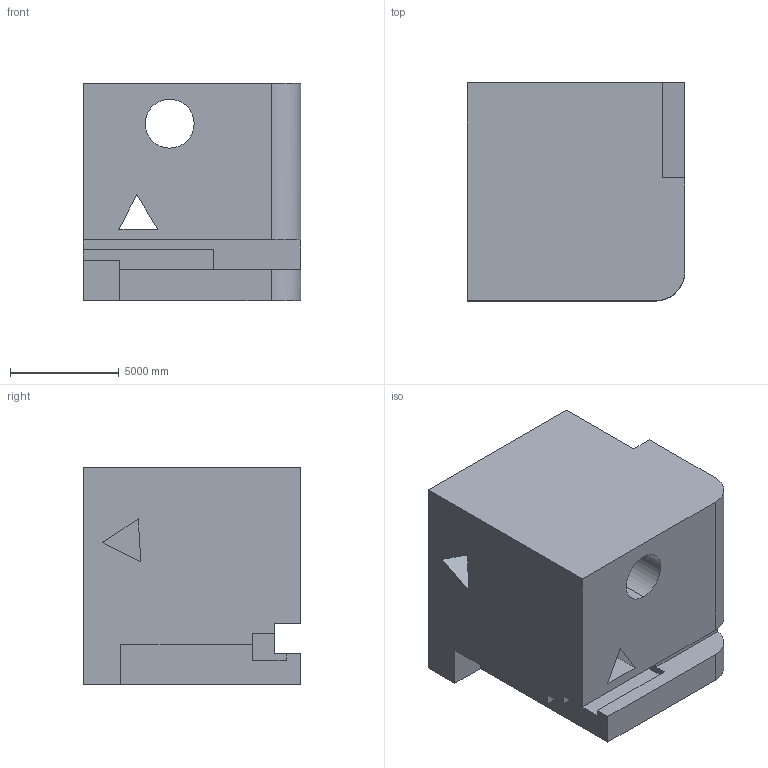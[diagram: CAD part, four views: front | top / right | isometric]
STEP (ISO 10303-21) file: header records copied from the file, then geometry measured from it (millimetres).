
FILE_DESCRIPTION (( 'STEP AP203' ), '1' );
FILE_NAME ('182.STEP', '2022-08-31T12:14:38', ( 'user' ), ( '' ), 'SwSTEP 2.0', 'SolidWorks 2021', '' );
FILE_SCHEMA (( 'CONFIG_CONTROL_DESIGN' ));
Length unit declared in the file: centimetre
Products named in the file (1): 182
Bounding box: 10000 x 10000 x 10000 mm (x, y, z)
Volume: 858726197639.5 mm3; surface area: 794493569.3 mm2
Topology: 1 solids, 1 shells, 37 faces, 99 edges, 66 vertices
Faces by surface type: plane 30, cylinder 7
Entity records: 1234 total; most frequent: CARTESIAN_POINT 203, ORIENTED_EDGE 198, DIRECTION 191, EDGE_CURVE 99, LINE 83, VECTOR 83, VERTEX_POINT 66, AXIS2_PLACEMENT_3D 54
